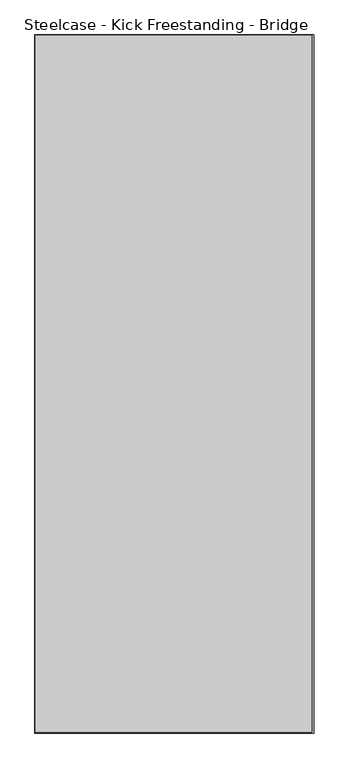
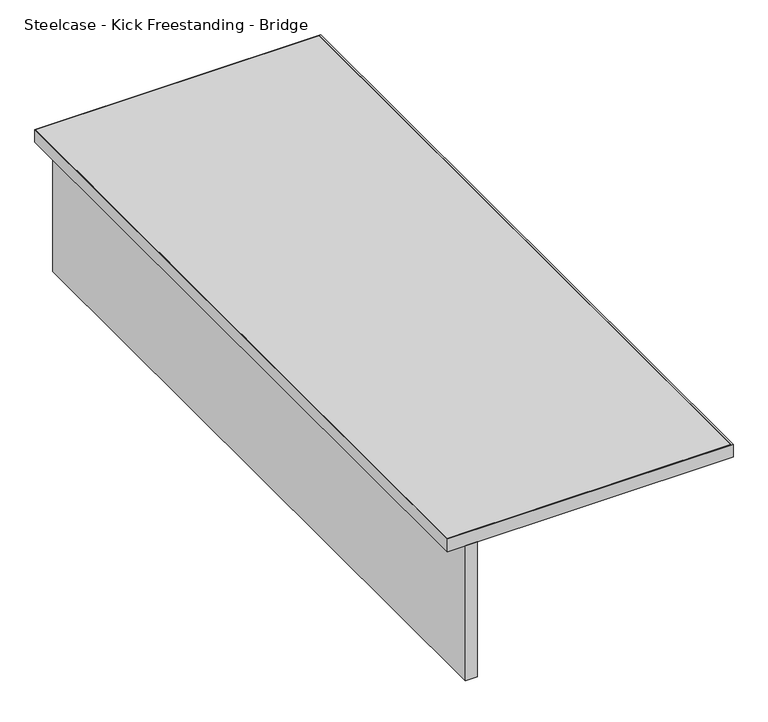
"""IFC4 building model written with IfcOpenShell, lengths in millimetres: furniture geometry, Steelcase - Kick Freestanding - Bridge : 24D x 60W - Half Panel."""

from ifc_helpers import new_model, si_unit, frame, origin, place, context, project, spatial, polyline, outline, extrude, source, transform, mapped, element, save


def steelcase_kick_freestanding_bridge_df513240(model_context):
    return source(origin(), model_context, "Body", "SweptSolid", [
        extrude(outline(polyline([(2201.9594425, -2070.8145152), (2201.9594425, -546.8145152), (2227.3594425, -546.8145152), (2227.3594425, -2070.8145152), (2201.9594425, -2070.8145152)])), frame((0.0, 0.0, 377.444), z_axis=(0.0, 0.0, 1.0), x_axis=(1.0, 0.0, 0.0)), (0.0, 0.0, 1.0), 304.8),
        extrude(outline(polyline([(2769.2176592, -548.0845152), (2769.2176592, -2069.5445152), (2164.8500425, -2069.5445152), (2164.8500425, -548.0845152), (2769.2176592, -548.0845152)])), frame((0.0, 0.0, 682.244), z_axis=(0.0, 0.0, 1.0), x_axis=(1.0, 0.0, 0.0)), (0.0, 0.0, 1.0), 28.956),
        extrude(outline(polyline([(2773.4594425, -546.8145152), (2773.4594425, -2070.8145152), (2163.8594425, -2070.8145152), (2163.8594425, -546.8145152), (2773.4594425, -546.8145152)]), holes=[polyline([(2769.2176592, -548.0845152), (2164.8500425, -548.0845152), (2164.8500425, -2069.5445152), (2769.2176592, -2069.5445152), (2769.2176592, -548.0845152)])]), frame((0.0, 0.0, 682.244), z_axis=(0.0, 0.0, 1.0), x_axis=(1.0, 0.0, 0.0)), (0.0, 0.0, 1.0), 28.956),
    ])


if __name__ == "__main__":
    model = new_model("IFC4")
    model_context = context("Model", 3, world=origin())
    ifc_project = project(units=[si_unit("LENGTHUNIT", "METRE", prefix="MILLI")], contexts=[model_context])
    site = spatial("IfcSite", under=ifc_project)
    building = spatial("IfcBuilding", under=site)
    placement = place(None, origin())
    steelcase_kick_freestanding_bridge_shape = steelcase_kick_freestanding_bridge_df513240(model_context)
    element("IfcFurniture", 1, ObjectType="Steelcase - Kick Freestanding - Bridge : 24D x 60W - Half Panel", at=placement, inside=building, context=model_context, shape_type="MappedRepresentation", body=[
        mapped(steelcase_kick_freestanding_bridge_shape, transform((0.0, 0.0, 0.0), x_axis=(1.0, 0.0, 0.0), y_axis=(0.0, 1.0, 0.0), z_axis=(0.0, 0.0, 1.0))),
    ])
    save(model, "model.ifc")
